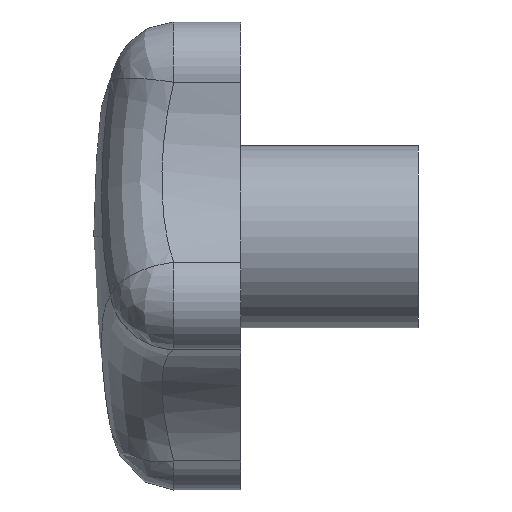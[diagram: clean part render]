
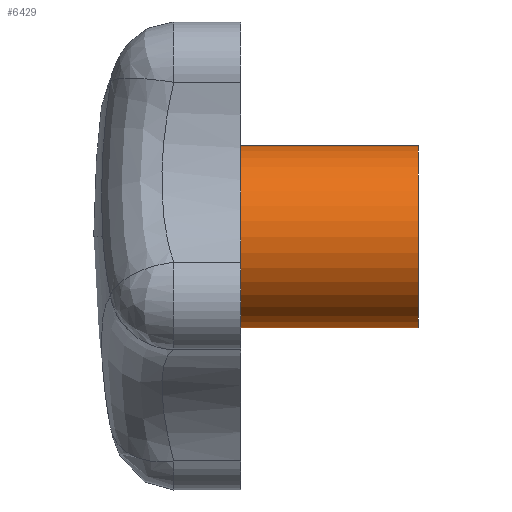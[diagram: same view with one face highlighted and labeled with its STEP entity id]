
A CAD part, left-side view. The second image highlights one B-rep face of the part: STEP entity #6429.
In plain terms, the highlighted cylindrical face has radius 9 mm (diameter 18 mm), a partial arc.
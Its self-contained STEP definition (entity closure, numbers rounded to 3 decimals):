
#6297 = EDGE_CURVE ( 'NONE', #6390, #7501, #6880, .T. ) ;
#6360 = EDGE_CURVE ( 'NONE', #7517, #6390, #7083, .T. ) ;
#6390 = VERTEX_POINT ( 'NONE', #7132 ) ;
#6400 = ORIENTED_EDGE ( 'NONE', *, *, #7515, .F. ) ;
#6404 = ORIENTED_EDGE ( 'NONE', *, *, #7502, .T. ) ;
#6405 = ORIENTED_EDGE ( 'NONE', *, *, #6297, .T. ) ;
#6425 = ORIENTED_EDGE ( 'NONE', *, *, #6443, .T. ) ;
#6429 = ADVANCED_FACE ( 'NONE', ( #7202 ), #7227, .T. ) ;
#6441 = EDGE_LOOP ( 'NONE', ( #6400, #6442, #6405, #6404, #6425 ) ) ;
#6442 = ORIENTED_EDGE ( 'NONE', *, *, #6360, .T. ) ;
#6443 = EDGE_CURVE ( 'NONE', #7506, #7516, #7071, .T. ) ;
#6840 = DIRECTION ( 'NONE',  ( 0., 0., -1. ) ) ;
#6841 = DIRECTION ( 'NONE',  ( 0., -1., 0. ) ) ;
#6842 = CARTESIAN_POINT ( 'NONE',  ( 0., 12.122, 0. ) ) ;
#6879 = AXIS2_PLACEMENT_3D ( 'NONE', #6842, #6841, #6840 ) ;
#6880 = CIRCLE ( 'NONE', #6879, 9. ) ;
#7028 = CARTESIAN_POINT ( 'NONE',  ( 0., 12.122, 0. ) ) ;
#7068 = DIRECTION ( 'NONE',  ( 0., 0., 1. ) ) ;
#7069 = DIRECTION ( 'NONE',  ( 0., 1., 0. ) ) ;
#7070 = AXIS2_PLACEMENT_3D ( 'NONE', #7099, #7069, #7068 ) ;
#7071 = CIRCLE ( 'NONE', #7070, 9. ) ;
#7080 = DIRECTION ( 'NONE',  ( 0., 0., -1. ) ) ;
#7081 = DIRECTION ( 'NONE',  ( 0., -1., 0. ) ) ;
#7082 = AXIS2_PLACEMENT_3D ( 'NONE', #7028, #7081, #7080 ) ;
#7083 = CIRCLE ( 'NONE', #7082, 9. ) ;
#7099 = CARTESIAN_POINT ( 'NONE',  ( 0., -17.5, 0. ) ) ;
#7132 = CARTESIAN_POINT ( 'NONE',  ( -9., 12.122, 0. ) ) ;
#7202 = FACE_OUTER_BOUND ( 'NONE', #6441, .T. ) ;
#7223 = DIRECTION ( 'NONE',  ( 0., 0., -1. ) ) ;
#7224 = DIRECTION ( 'NONE',  ( 0., -1., 0. ) ) ;
#7225 = CARTESIAN_POINT ( 'NONE',  ( 0., 500000., 0. ) ) ;
#7226 = AXIS2_PLACEMENT_3D ( 'NONE', #7225, #7224, #7223 ) ;
#7227 = CYLINDRICAL_SURFACE ( 'NONE', #7226, 9. ) ;
#7501 = VERTEX_POINT ( 'NONE', #11900 ) ;
#7502 = EDGE_CURVE ( 'NONE', #7501, #7506, #11899, .T. ) ;
#7506 = VERTEX_POINT ( 'NONE', #11843 ) ;
#7515 = EDGE_CURVE ( 'NONE', #7517, #7516, #11821, .T. ) ;
#7516 = VERTEX_POINT ( 'NONE', #11817 ) ;
#7517 = VERTEX_POINT ( 'NONE', #11816 ) ;
#11816 = CARTESIAN_POINT ( 'NONE',  ( 0., 12.122, 9. ) ) ;
#11817 = CARTESIAN_POINT ( 'NONE',  ( 0., -17.5, 9. ) ) ;
#11818 = DIRECTION ( 'NONE',  ( 0., -1., 0. ) ) ;
#11819 = VECTOR ( 'NONE', #11818, 1000. ) ;
#11820 = CARTESIAN_POINT ( 'NONE',  ( 0., 500000., 9. ) ) ;
#11821 = LINE ( 'NONE', #11820, #11819 ) ;
#11843 = CARTESIAN_POINT ( 'NONE',  ( 0., -17.5, -9. ) ) ;
#11896 = DIRECTION ( 'NONE',  ( 0., -1., 0. ) ) ;
#11897 = VECTOR ( 'NONE', #11896, 1000. ) ;
#11898 = CARTESIAN_POINT ( 'NONE',  ( 0., 500000., -9. ) ) ;
#11899 = LINE ( 'NONE', #11898, #11897 ) ;
#11900 = CARTESIAN_POINT ( 'NONE',  ( 0., 12.122, -9. ) ) ;
